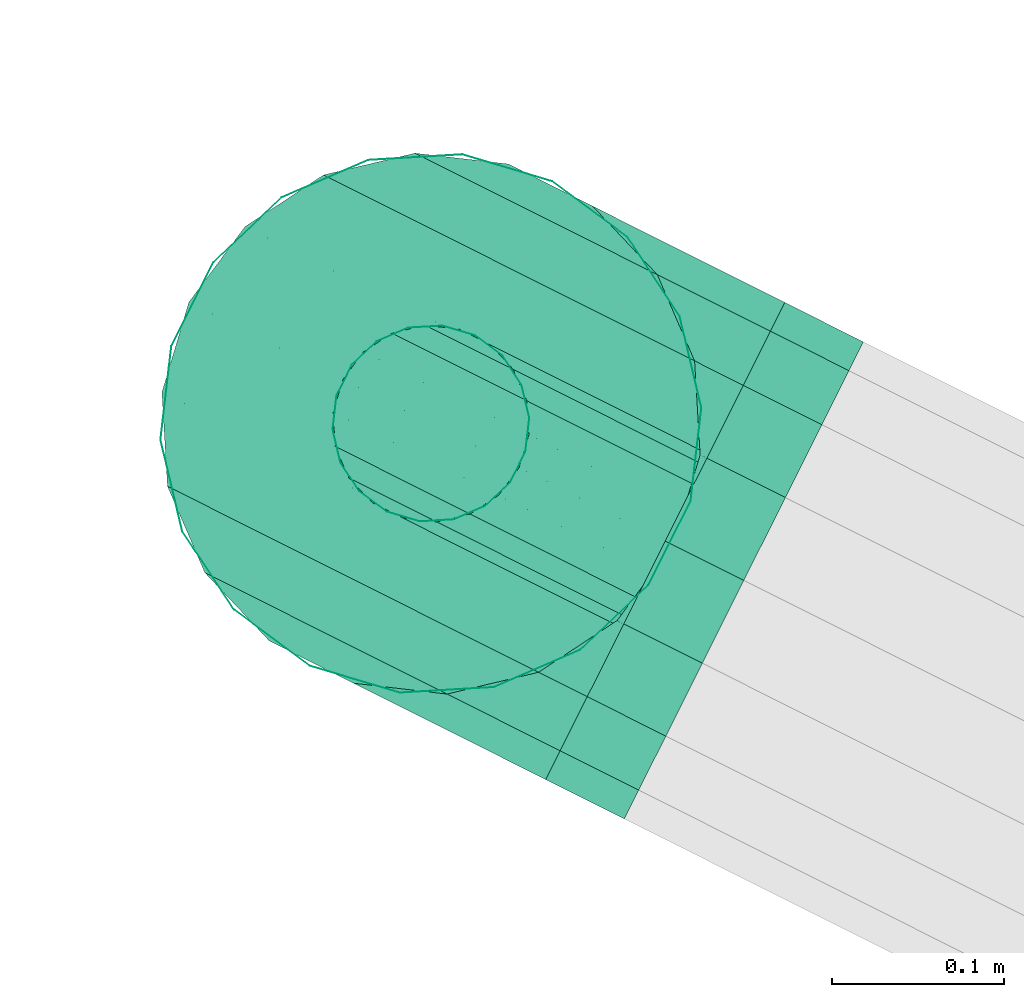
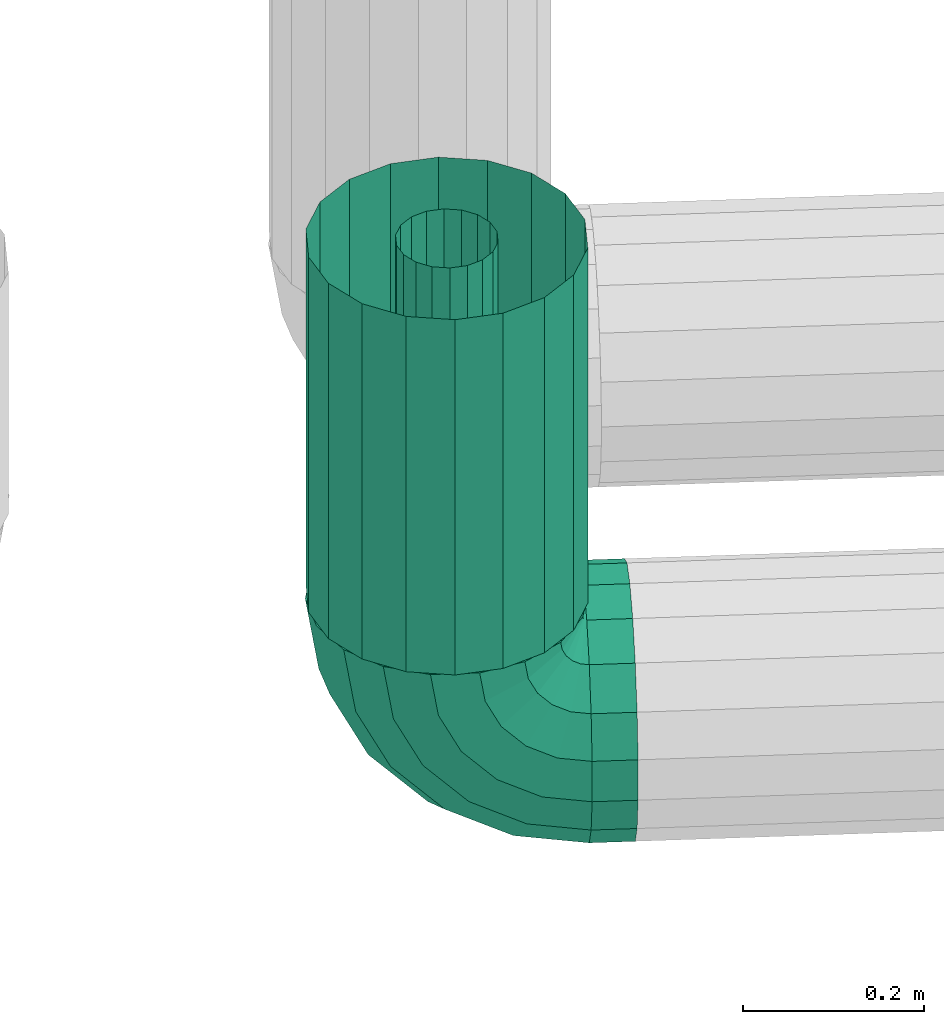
# One storey, part 167 of 206: 3 flow segments.
"""IFC2X3 building model written with IfcOpenShell, lengths in metres."""

from ifc_helpers import new_model, si_unit, derived_unit, direction, frame, origin, place, context, subcontext, project, spatial, face_set, surface_model, source, transform, mapped, material, type_object, type_shapes, element, save


model = new_model("IFC2X3")

# Units and contexts
model_context = context("Model", 3, precision=5.2338327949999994e-05, world=origin(), true_north=direction((0.0, 1.0)))
body_context = subcontext(model_context, "Body", "Model", "MODEL_VIEW")
ifc_project = project(units=[si_unit("LENGTHUNIT", "METRE"), si_unit("AREAUNIT", "SQUARE_METRE"), si_unit("VOLUMEUNIT", "CUBIC_METRE"), si_unit("MASSUNIT", "GRAM", prefix="KILO"), si_unit("PLANEANGLEUNIT", "RADIAN"), derived_unit("THERMALTRANSMITTANCEUNIT", [(si_unit("MASSUNIT", "GRAM", prefix="KILO"), 1), (si_unit("THERMODYNAMICTEMPERATUREUNIT", "KELVIN"), -1), (si_unit("TIMEUNIT", "SECOND"), -3)])], contexts=[model_context])

# Site, building, storey
site_placement = place(None, frame((0.0, 0.0, 0.0), z_axis=(0.0, 0.0, 1.0), x_axis=(0.8939966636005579, -0.4480736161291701, 0.0)))
site = spatial("IfcSite", under=ifc_project, at=site_placement, Name="Default", CompositionType="ELEMENT")
building_placement = place(site_placement, origin())
building = spatial("IfcBuilding", under=site, at=building_placement, CompositionType="ELEMENT")
storey_placement = place(building_placement, origin())
storey = spatial("IfcBuildingStorey", under=building, at=storey_placement, Name="Erdgeschoss", CompositionType="ELEMENT", Elevation=0.0)

# Flow segments
ifc_material = material(Name="IfcSurfaceStyle #9317")
distribution_element_type_1 = type_object("IfcDistributionElementType", Name="Rohrbogen 303678:Rohrbogen 303678", material=ifc_material)
shared_shape_1 = source(origin(), body_context, "Body", "SurfaceModel", [
    surface_model("IfcFaceBasedSurfaceModel", [(7.235704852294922, 7.327208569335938, 2.4051674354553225), (7.225468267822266, 7.327208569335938, 2.4697983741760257), (7.238982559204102, 7.34675505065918, 2.4062324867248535), (7.228915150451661, 7.34675505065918, 2.4697983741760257), (7.265412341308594, 7.327208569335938, 2.3468631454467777), (7.268200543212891, 7.34675505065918, 2.3488890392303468), (7.311682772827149, 7.327208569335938, 2.300592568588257), (7.313708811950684, 7.34675505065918, 2.303380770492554), (7.369987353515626, 7.327208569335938, 2.270884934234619), (7.371052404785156, 7.34675505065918, 2.274162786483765), (7.434618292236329, 7.327208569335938, 2.260648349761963), (7.434618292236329, 7.34675505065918, 2.264094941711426), (7.248420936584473, 7.363943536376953, 2.409299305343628), (7.238838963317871, 7.363943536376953, 2.4697983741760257), (7.276229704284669, 7.363943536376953, 2.354722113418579), (7.319542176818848, 7.363943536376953, 2.3114094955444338), (7.374119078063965, 7.363943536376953, 2.283601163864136), (7.434618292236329, 7.363943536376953, 2.2740188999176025), (7.262881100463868, 7.376701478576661, 2.4139977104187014), (7.254043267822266, 7.376701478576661, 2.4697983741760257), (7.288530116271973, 7.376701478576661, 2.36365906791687), (7.3284788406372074, 7.376701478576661, 2.32371019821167), (7.378817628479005, 7.376701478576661, 2.2980613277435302), (7.434618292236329, 7.376701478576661, 2.289223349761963), (7.2726944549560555, 7.383490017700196, 2.4697983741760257), (7.280619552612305, 7.383490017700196, 2.4197611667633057), (7.303619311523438, 7.383490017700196, 2.3746219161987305), (7.339441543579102, 7.383490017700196, 2.338799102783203), (7.384581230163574, 7.383490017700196, 2.3157994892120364), (7.434618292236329, 7.383490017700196, 2.3078743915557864), (7.299495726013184, 7.383490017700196, 2.425894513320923), (7.292542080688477, 7.383490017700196, 2.4697983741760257), (7.319676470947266, 7.383490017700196, 2.386288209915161), (7.35110827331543, 7.383490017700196, 2.354856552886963), (7.390714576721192, 7.383490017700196, 2.3346760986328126), (7.434618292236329, 7.383490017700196, 2.327722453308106), (7.3172341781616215, 7.376701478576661, 2.4316579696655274), (7.311193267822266, 7.376701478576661, 2.4697983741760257), (7.334765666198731, 7.376701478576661, 2.3972510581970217), (7.362070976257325, 7.376701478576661, 2.3699454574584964), (7.396478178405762, 7.376701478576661, 2.3524142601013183), (7.434618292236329, 7.376701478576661, 2.346373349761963), (7.331694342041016, 7.363943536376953, 2.4363563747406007), (7.326397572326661, 7.363943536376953, 2.4697983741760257), (7.347066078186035, 7.363943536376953, 2.4061880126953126), (7.371007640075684, 7.363943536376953, 2.3822461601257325), (7.401176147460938, 7.363943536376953, 2.3668745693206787), (7.434618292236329, 7.363943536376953, 2.3615777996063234), (7.336321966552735, 7.34675505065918, 2.4697983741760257), (7.341132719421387, 7.34675505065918, 2.4394231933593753), (7.35509465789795, 7.34675505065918, 2.412021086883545), (7.376841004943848, 7.34675505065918, 2.3902748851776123), (7.404242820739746, 7.34675505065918, 2.376312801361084), (7.434618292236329, 7.34675505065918, 2.371501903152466), (7.339768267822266, 7.327208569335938, 2.4697983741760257), (7.344410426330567, 7.327208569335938, 2.4404882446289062), (7.357882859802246, 7.327208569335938, 2.4140469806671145), (7.378867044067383, 7.327208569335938, 2.3930630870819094), (7.405307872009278, 7.327208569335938, 2.37959065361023), (7.434618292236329, 7.327208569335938, 2.3749483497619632), (7.341132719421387, 7.3076620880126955, 2.4394231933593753), (7.336321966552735, 7.3076620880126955, 2.4697983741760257), (7.35509465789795, 7.3076620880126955, 2.412021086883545), (7.376841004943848, 7.3076620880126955, 2.3902748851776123), (7.404242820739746, 7.3076620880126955, 2.376312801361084), (7.434618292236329, 7.3076620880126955, 2.371501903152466), (7.331694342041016, 7.290473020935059, 2.4363563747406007), (7.326397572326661, 7.290473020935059, 2.4697983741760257), (7.347066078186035, 7.290473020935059, 2.4061880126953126), (7.371007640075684, 7.290473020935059, 2.3822461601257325), (7.401176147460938, 7.290473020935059, 2.3668745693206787), (7.434618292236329, 7.290473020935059, 2.3615777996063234), (7.311193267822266, 7.277715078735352, 2.4697983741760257), (7.3172341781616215, 7.277715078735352, 2.4316579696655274), (7.334765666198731, 7.277715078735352, 2.3972510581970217), (7.362070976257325, 7.277715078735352, 2.3699454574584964), (7.396478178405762, 7.277715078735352, 2.3524142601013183), (7.434618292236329, 7.277715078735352, 2.346373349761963), (7.292542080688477, 7.270926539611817, 2.4697983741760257), (7.299495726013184, 7.270926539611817, 2.425894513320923), (7.319676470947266, 7.270926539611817, 2.386288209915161), (7.35110827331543, 7.270926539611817, 2.354856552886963), (7.390714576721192, 7.270926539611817, 2.3346760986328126), (7.434618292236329, 7.270926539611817, 2.327722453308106), (7.2726944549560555, 7.270926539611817, 2.4697983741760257), (7.280619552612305, 7.270926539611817, 2.4197611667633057), (7.303619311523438, 7.270926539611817, 2.3746219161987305), (7.339441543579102, 7.270926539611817, 2.338799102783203), (7.384581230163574, 7.270926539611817, 2.3157994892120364), (7.434618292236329, 7.270926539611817, 2.3078743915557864), (7.262881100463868, 7.277715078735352, 2.4139977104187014), (7.254043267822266, 7.277715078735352, 2.4697983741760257), (7.288530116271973, 7.277715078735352, 2.36365906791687), (7.3284788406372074, 7.277715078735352, 2.32371019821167), (7.378817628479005, 7.277715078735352, 2.2980613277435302), (7.434618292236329, 7.277715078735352, 2.289223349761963), (7.238838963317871, 7.290473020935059, 2.4697983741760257), (7.248420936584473, 7.290473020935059, 2.409299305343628), (7.276229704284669, 7.290473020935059, 2.354722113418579), (7.319542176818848, 7.290473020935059, 2.3114094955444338), (7.374119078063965, 7.290473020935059, 2.283601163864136), (7.434618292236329, 7.290473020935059, 2.2740188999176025), (7.228915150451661, 7.3076620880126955, 2.4697983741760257), (7.238982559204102, 7.3076620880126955, 2.4062324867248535), (7.268200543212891, 7.3076620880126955, 2.3488890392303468), (7.313708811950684, 7.3076620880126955, 2.303380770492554), (7.140599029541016, 7.327208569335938, 2.374265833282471), (7.125468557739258, 7.327208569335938, 2.4697983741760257), (7.1349458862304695, 7.380957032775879, 2.4697983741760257), (7.149612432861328, 7.380957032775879, 2.37719443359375), (7.184510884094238, 7.327208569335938, 2.288084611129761), (7.192177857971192, 7.380957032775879, 2.293655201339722), (7.252904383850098, 7.327208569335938, 2.21969082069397), (7.258474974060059, 7.380957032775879, 2.2273580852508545), (7.339085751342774, 7.327208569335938, 2.175779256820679), (7.342014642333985, 7.380957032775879, 2.1847928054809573), (7.434618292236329, 7.327208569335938, 2.1606483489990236), (7.434618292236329, 7.380957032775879, 2.1701256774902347), (7.175566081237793, 7.428222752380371, 2.3856272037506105), (7.162234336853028, 7.428222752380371, 2.4697983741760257), (7.214254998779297, 7.428222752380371, 2.309695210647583), (7.274515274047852, 7.428222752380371, 2.24943522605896), (7.350447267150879, 7.428222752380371, 2.210745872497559), (7.434618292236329, 7.428222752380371, 2.1974145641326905), (7.204043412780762, 7.463304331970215, 2.4697983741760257), (7.2153281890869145, 7.463304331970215, 2.3985467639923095), (7.248079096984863, 7.463304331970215, 2.3342698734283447), (7.299089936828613, 7.463304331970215, 2.2832593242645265), (7.3633668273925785, 7.463304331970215, 2.250508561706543), (7.434618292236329, 7.463304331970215, 2.2392233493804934), (7.264104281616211, 7.481971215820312, 2.414395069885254), (7.255329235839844, 7.481971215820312, 2.4697983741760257), (7.289570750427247, 7.481971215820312, 2.3644151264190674), (7.329235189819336, 7.481971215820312, 2.324750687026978), (7.379215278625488, 7.481971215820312, 2.29928465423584), (7.434618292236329, 7.481971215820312, 2.2905096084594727), (7.316010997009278, 7.481971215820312, 2.431260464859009), (7.309907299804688, 7.481971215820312, 2.4697983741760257), (7.333725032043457, 7.481971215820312, 2.3964949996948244), (7.361315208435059, 7.481971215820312, 2.3689049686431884), (7.396080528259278, 7.481971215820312, 2.351191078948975), (7.434618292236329, 7.481971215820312, 2.345087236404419), (7.36119312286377, 7.463304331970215, 2.4697983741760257), (7.3647870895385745, 7.463304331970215, 2.4471087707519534), (7.375216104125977, 7.463304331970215, 2.426640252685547), (7.3914604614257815, 7.463304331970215, 2.41039633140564), (7.411928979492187, 7.463304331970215, 2.399967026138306), (7.434618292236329, 7.463304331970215, 2.3963733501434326), (7.404549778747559, 7.428222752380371, 2.460028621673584), (7.403002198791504, 7.428222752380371, 2.4697983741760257), (7.409040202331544, 7.428222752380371, 2.4512149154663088), (7.416035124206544, 7.428222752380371, 2.444220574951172), (7.424848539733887, 7.428222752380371, 2.4397295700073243), (7.434618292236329, 7.428222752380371, 2.4381822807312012), (7.430502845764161, 7.380957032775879, 2.4684612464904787), (7.430291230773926, 7.380957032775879, 2.4697983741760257), (7.431117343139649, 7.380957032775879, 2.46725492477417), (7.432074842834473, 7.380957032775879, 2.466297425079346), (7.433281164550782, 7.380957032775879, 2.4656829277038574), (7.434618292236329, 7.380957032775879, 2.4654710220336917), (7.434618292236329, 7.356414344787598, 2.4697983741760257), (7.434618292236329, 7.357081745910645, 2.469055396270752), (7.434618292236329, 7.298002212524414, 2.4697983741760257), (7.434618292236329, 7.297334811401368, 2.469055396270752), (7.430502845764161, 7.273460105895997, 2.4684612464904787), (7.430291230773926, 7.273460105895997, 2.4697983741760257), (7.431117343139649, 7.273460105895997, 2.46725492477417), (7.432074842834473, 7.273460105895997, 2.466297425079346), (7.433281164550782, 7.273460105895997, 2.4656829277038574), (7.434618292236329, 7.273460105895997, 2.4654710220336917), (7.403002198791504, 7.226194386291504, 2.4697983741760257), (7.404549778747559, 7.226194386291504, 2.460028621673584), (7.409040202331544, 7.226194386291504, 2.4512149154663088), (7.416035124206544, 7.226194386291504, 2.444220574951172), (7.424848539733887, 7.226194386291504, 2.4397295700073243), (7.434618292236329, 7.226194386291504, 2.4381822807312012), (7.36119312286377, 7.191112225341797, 2.4697983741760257), (7.3647870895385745, 7.191112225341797, 2.4471087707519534), (7.375216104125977, 7.191112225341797, 2.426640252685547), (7.3914604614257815, 7.191112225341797, 2.41039633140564), (7.411928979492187, 7.191112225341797, 2.399967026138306), (7.434618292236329, 7.191112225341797, 2.3963733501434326), (7.309907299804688, 7.172445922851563, 2.4697983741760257), (7.316010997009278, 7.172445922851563, 2.431260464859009), (7.333725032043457, 7.172445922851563, 2.3964949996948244), (7.361315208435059, 7.172445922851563, 2.3689049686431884), (7.396080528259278, 7.172445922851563, 2.351191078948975), (7.434618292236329, 7.172445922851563, 2.345087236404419), (7.255329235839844, 7.172445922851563, 2.4697983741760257), (7.264104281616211, 7.172445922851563, 2.414395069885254), (7.289570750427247, 7.172445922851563, 2.3644151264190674), (7.329235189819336, 7.172445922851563, 2.324750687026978), (7.379215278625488, 7.172445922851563, 2.29928465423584), (7.434618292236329, 7.172445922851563, 2.2905096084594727), (7.204043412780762, 7.191112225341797, 2.4697983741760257), (7.2153281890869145, 7.191112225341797, 2.3985467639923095), (7.248079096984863, 7.191112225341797, 2.3342698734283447), (7.299089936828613, 7.191112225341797, 2.2832593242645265), (7.3633668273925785, 7.191112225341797, 2.250508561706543), (7.434618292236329, 7.191112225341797, 2.2392233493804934), (7.162234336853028, 7.226194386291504, 2.4697983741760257), (7.175566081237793, 7.226194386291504, 2.3856272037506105), (7.214254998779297, 7.226194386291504, 2.309695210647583), (7.274515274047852, 7.226194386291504, 2.24943522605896), (7.350447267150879, 7.226194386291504, 2.210745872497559), (7.434618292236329, 7.226194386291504, 2.1974145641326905), (7.1349458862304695, 7.273460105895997, 2.4697983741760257), (7.149612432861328, 7.273460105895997, 2.37719443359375), (7.192177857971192, 7.273460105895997, 2.293655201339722), (7.258474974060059, 7.273460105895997, 2.2273580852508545), (7.342014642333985, 7.273460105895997, 2.1847928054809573), (7.434618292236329, 7.273460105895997, 2.1701256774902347), (7.371052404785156, 7.3076620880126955, 2.274162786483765), (7.434618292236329, 7.3076620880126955, 2.264094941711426)], [face_set([[[0, 1, 2]], [[3, 2, 1]], [[4, 0, 2]], [[2, 5, 4]], [[6, 4, 7]], [[5, 7, 4]], [[8, 6, 7]], [[7, 9, 8]], [[10, 8, 9]], [[9, 11, 10]], [[2, 3, 12]], [[13, 12, 3]], [[5, 2, 14]], [[12, 14, 2]], [[7, 5, 15]], [[14, 15, 5]], [[9, 7, 16]], [[15, 16, 7]], [[11, 9, 17]], [[16, 17, 9]], [[12, 13, 18]], [[19, 18, 13]], [[14, 12, 20]], [[18, 20, 12]], [[15, 14, 21]], [[20, 21, 14]], [[16, 15, 21]], [[21, 22, 16]], [[17, 16, 22]], [[22, 23, 17]], [[18, 19, 24]], [[24, 25, 18]], [[20, 18, 25]], [[25, 26, 20]], [[21, 20, 26]], [[26, 27, 21]], [[22, 21, 27]], [[27, 28, 22]], [[23, 22, 28]], [[28, 29, 23]], [[25, 24, 30]], [[31, 30, 24]], [[26, 25, 32]], [[30, 32, 25]], [[27, 26, 33]], [[32, 33, 26]], [[28, 27, 33]], [[33, 34, 28]], [[29, 28, 35]], [[34, 35, 28]], [[30, 31, 36]], [[37, 36, 31]], [[32, 30, 38]], [[36, 38, 30]], [[33, 32, 38]], [[38, 39, 33]], [[34, 33, 40]], [[39, 40, 33]], [[35, 34, 41]], [[40, 41, 34]], [[36, 37, 42]], [[43, 42, 37]], [[38, 36, 44]], [[42, 44, 36]], [[39, 38, 45]], [[44, 45, 38]], [[40, 39, 46]], [[45, 46, 39]], [[41, 40, 47]], [[46, 47, 40]], [[42, 43, 48]], [[48, 49, 42]], [[44, 42, 49]], [[49, 50, 44]], [[45, 44, 50]], [[50, 51, 45]], [[46, 45, 51]], [[51, 52, 46]], [[47, 46, 52]], [[52, 53, 47]], [[49, 48, 54]], [[54, 55, 49]], [[50, 49, 56]], [[55, 56, 49]], [[51, 50, 56]], [[56, 57, 51]], [[52, 51, 57]], [[57, 58, 52]], [[53, 52, 58]], [[58, 59, 53]], [[55, 54, 60]], [[61, 60, 54]], [[56, 55, 60]], [[60, 62, 56]], [[57, 56, 63]], [[62, 63, 56]], [[58, 57, 64]], [[63, 64, 57]], [[59, 58, 65]], [[64, 65, 58]], [[60, 61, 66]], [[67, 66, 61]], [[62, 60, 68]], [[66, 68, 60]], [[63, 62, 69]], [[68, 69, 62]], [[64, 63, 70]], [[69, 70, 63]], [[65, 64, 71]], [[70, 71, 64]], [[66, 67, 72]], [[72, 73, 66]], [[68, 66, 73]], [[73, 74, 68]], [[69, 68, 75]], [[74, 75, 68]], [[70, 69, 76]], [[75, 76, 69]], [[71, 70, 76]], [[76, 77, 71]], [[73, 72, 78]], [[78, 79, 73]], [[74, 73, 79]], [[79, 80, 74]], [[75, 74, 81]], [[80, 81, 74]], [[76, 75, 82]], [[81, 82, 75]], [[77, 76, 82]], [[82, 83, 77]], [[79, 78, 84]], [[84, 85, 79]], [[80, 79, 85]], [[85, 86, 80]], [[81, 80, 87]], [[86, 87, 80]], [[82, 81, 88]], [[87, 88, 81]], [[83, 82, 88]], [[88, 89, 83]], [[85, 84, 90]], [[91, 90, 84]], [[86, 85, 92]], [[90, 92, 85]], [[87, 86, 93]], [[92, 93, 86]], [[88, 87, 94]], [[93, 94, 87]], [[89, 88, 95]], [[94, 95, 88]], [[90, 91, 96]], [[96, 97, 90]], [[92, 90, 97]], [[97, 98, 92]], [[93, 92, 98]], [[98, 99, 93]], [[94, 93, 100]], [[99, 100, 93]], [[95, 94, 100]], [[100, 101, 95]], [[97, 96, 102]], [[102, 103, 97]], [[98, 97, 103]], [[103, 104, 98]], [[99, 98, 104]], [[104, 105, 99]], [[103, 102, 1]], [[1, 0, 103]], [[104, 103, 0]], [[0, 4, 104]], [[105, 104, 4]], [[4, 6, 105]], [[106, 107, 108]], [[108, 109, 106]], [[110, 106, 111]], [[109, 111, 106]], [[112, 110, 111]], [[111, 113, 112]], [[114, 112, 113]], [[113, 115, 114]], [[116, 114, 117]], [[115, 117, 114]], [[109, 108, 118]], [[119, 118, 108]], [[111, 109, 120]], [[118, 120, 109]], [[113, 111, 121]], [[120, 121, 111]], [[115, 113, 121]], [[121, 122, 115]], [[117, 115, 122]], [[122, 123, 117]], [[118, 119, 124]], [[124, 125, 118]], [[120, 118, 125]], [[125, 126, 120]], [[121, 120, 126]], [[126, 127, 121]], [[122, 121, 127]], [[127, 128, 122]], [[123, 122, 128]], [[128, 129, 123]], [[125, 124, 130]], [[131, 130, 124]], [[126, 125, 132]], [[130, 132, 125]], [[127, 126, 132]], [[132, 133, 127]], [[128, 127, 133]], [[133, 134, 128]], [[129, 128, 135]], [[134, 135, 128]], [[130, 131, 136]], [[137, 136, 131]], [[132, 130, 136]], [[136, 138, 132]], [[133, 132, 138]], [[138, 139, 133]], [[134, 133, 139]], [[139, 140, 134]], [[135, 134, 140]], [[140, 141, 135]], [[136, 137, 142]], [[142, 143, 136]], [[138, 136, 143]], [[143, 144, 138]], [[139, 138, 144]], [[144, 145, 139]], [[140, 139, 145]], [[145, 146, 140]], [[141, 140, 146]], [[146, 147, 141]], [[143, 142, 148]], [[149, 148, 142]], [[144, 143, 150]], [[148, 150, 143]], [[145, 144, 151]], [[150, 151, 144]], [[146, 145, 151]], [[151, 152, 146]], [[147, 146, 152]], [[152, 153, 147]], [[148, 149, 154]], [[155, 154, 149]], [[150, 148, 156]], [[154, 156, 148]], [[151, 150, 156]], [[156, 157, 151]], [[152, 151, 157]], [[157, 158, 152]], [[153, 152, 158]], [[158, 159, 153]], [[160, 154, 161]], [[160, 161, 155]], [[154, 155, 161]], [[156, 154, 160]], [[157, 156, 160]], [[158, 157, 160]], [[159, 158, 160]], [[162, 163, 164]], [[165, 164, 163]], [[163, 162, 165]], [[164, 166, 162]], [[162, 166, 167]], [[167, 168, 162]], [[168, 169, 162]], [[164, 165, 170]], [[170, 171, 164]], [[166, 164, 171]], [[171, 172, 166]], [[167, 166, 173]], [[172, 173, 166]], [[168, 167, 174]], [[173, 174, 167]], [[169, 168, 175]], [[174, 175, 168]], [[171, 170, 176]], [[176, 177, 171]], [[172, 171, 177]], [[177, 178, 172]], [[173, 172, 178]], [[178, 179, 173]], [[174, 173, 180]], [[179, 180, 173]], [[175, 174, 180]], [[180, 181, 175]], [[177, 176, 182]], [[182, 183, 177]], [[178, 177, 184]], [[183, 184, 177]], [[179, 178, 184]], [[184, 185, 179]], [[180, 179, 186]], [[185, 186, 179]], [[181, 180, 187]], [[186, 187, 180]], [[183, 182, 188]], [[188, 189, 183]], [[184, 183, 190]], [[189, 190, 183]], [[185, 184, 191]], [[190, 191, 184]], [[186, 185, 192]], [[191, 192, 185]], [[187, 186, 193]], [[192, 193, 186]], [[189, 188, 194]], [[194, 195, 189]], [[190, 189, 195]], [[195, 196, 190]], [[191, 190, 197]], [[196, 197, 190]], [[192, 191, 198]], [[197, 198, 191]], [[193, 192, 198]], [[198, 199, 193]], [[195, 194, 200]], [[200, 201, 195]], [[196, 195, 202]], [[201, 202, 195]], [[197, 196, 203]], [[202, 203, 196]], [[198, 197, 204]], [[203, 204, 197]], [[199, 198, 205]], [[204, 205, 198]], [[201, 200, 206]], [[206, 207, 201]], [[202, 201, 208]], [[207, 208, 201]], [[203, 202, 208]], [[208, 209, 203]], [[204, 203, 210]], [[209, 210, 203]], [[205, 204, 211]], [[210, 211, 204]], [[207, 206, 107]], [[107, 106, 207]], [[208, 207, 110]], [[106, 110, 207]], [[209, 208, 112]], [[110, 112, 208]], [[210, 209, 114]], [[112, 114, 209]], [[211, 210, 116]], [[114, 116, 210]], [[100, 99, 212]], [[105, 212, 99]], [[101, 100, 213]], [[212, 213, 100]], [[212, 105, 6]], [[6, 8, 212]], [[213, 212, 8]], [[8, 10, 213]]])]),
])
type_shapes(distribution_element_type_1, [shared_shape_1])
flow_segment_1_placement = place(storey_placement, origin())
element("IfcFlowSegment", 1, at=flow_segment_1_placement, inside=storey, type_object=distribution_element_type_1, material=ifc_material, Name="Rohrbogen", ObjectType="Rohrbogen", context=body_context, shape_type="MappedRepresentation", body=[
    mapped(shared_shape_1, transform((0.0, 0.0, 0.0), scale=1.0)),
])
distribution_element_type_2 = type_object("IfcDistributionElementType", Name="Stahlrohr nach DIN 2448 303701:Stahlrohr nach DIN 2448 303701", material=ifc_material)
shared_shape_2 = source(origin(), body_context, "Body", "SurfaceModel", [
    surface_model("IfcFaceBasedSurfaceModel", [(7.485608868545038, 7.3272083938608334, 2.260648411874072), (7.485608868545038, 7.30766194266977, 2.264094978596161), (7.434618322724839, 7.307661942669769, 2.2640949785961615), (7.434618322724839, 7.3272083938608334, 2.2606484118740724), (7.485608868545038, 7.290473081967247, 2.274018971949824), (7.434618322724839, 7.290473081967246, 2.2740189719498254), (7.485608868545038, 7.2777150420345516, 2.28922341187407), (7.434618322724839, 7.277715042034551, 2.289223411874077), (7.485608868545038, 7.270926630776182, 2.3078744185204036), (7.434618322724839, 7.270926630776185, 2.3078744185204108), (7.485608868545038, 7.270926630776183, 2.327722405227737), (7.434618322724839, 7.270926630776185, 2.327722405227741), (7.485608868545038, 7.277715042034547, 2.346373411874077), (7.434618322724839, 7.2777150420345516, 2.3463734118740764), (7.485608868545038, 7.290473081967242, 2.361577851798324), (7.434618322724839, 7.290473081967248, 2.361577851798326), (7.485608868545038, 7.307661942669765, 2.3715018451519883), (7.434618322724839, 7.30766194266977, 2.371501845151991), (7.485608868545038, 7.3272083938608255, 2.3749484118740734), (7.434618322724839, 7.3272083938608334, 2.374948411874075), (7.485608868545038, 7.346754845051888, 2.3715018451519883), (7.434618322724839, 7.346754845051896, 2.3715018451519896), (7.485608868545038, 7.363943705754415, 2.361577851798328), (7.434618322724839, 7.36394370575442, 2.3615778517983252), (7.485608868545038, 7.376701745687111, 2.3463734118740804), (7.434618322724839, 7.376701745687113, 2.3463734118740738), (7.485608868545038, 7.383490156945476, 2.3277224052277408), (7.434618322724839, 7.38349015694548, 2.32772240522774), (7.485608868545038, 7.383490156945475, 2.3078744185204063), (7.434618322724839, 7.38349015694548, 2.307874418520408), (7.485608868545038, 7.3767017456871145, 2.289223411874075), (7.434618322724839, 7.3767017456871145, 2.289223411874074), (7.485608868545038, 7.363943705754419, 2.2740189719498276), (7.434618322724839, 7.363943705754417, 2.274018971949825), (7.485608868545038, 7.346754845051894, 2.2640949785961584), (7.434618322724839, 7.346754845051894, 2.264094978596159), (7.485608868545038, 7.327208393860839, 2.160648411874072), (7.485608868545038, 7.27345992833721, 2.1701257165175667), (7.434618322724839, 7.273459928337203, 2.1701257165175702), (7.434618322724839, 7.327208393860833, 2.1606484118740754), (7.485608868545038, 7.226194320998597, 2.1974145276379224), (7.434618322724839, 7.226194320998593, 2.1974145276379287), (7.485608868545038, 7.191112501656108, 2.2392234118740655), (7.434618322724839, 7.191112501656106, 2.2392234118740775), (7.485608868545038, 7.172445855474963, 2.290509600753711), (7.434618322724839, 7.172445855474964, 2.29050960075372), (7.485608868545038, 7.172445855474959, 2.345087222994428), (7.434618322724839, 7.172445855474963, 2.3450872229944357), (7.485608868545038, 7.1911125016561, 2.3963734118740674), (7.434618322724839, 7.191112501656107, 2.396373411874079), (7.485608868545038, 7.226194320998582, 2.438182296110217), (7.434618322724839, 7.2261943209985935, 2.4381822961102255), (7.485608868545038, 7.273459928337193, 2.4654711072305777), (7.434618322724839, 7.273459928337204, 2.465471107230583), (7.485608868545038, 7.32720839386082, 2.474948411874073), (7.434618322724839, 7.327208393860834, 2.4749484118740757), (7.485608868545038, 7.380956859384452, 2.4654711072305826), (7.434618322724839, 7.380956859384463, 2.4654711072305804), (7.485608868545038, 7.4282224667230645, 2.4381822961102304), (7.434618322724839, 7.428222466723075, 2.438182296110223), (7.485608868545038, 7.46330428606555, 2.3963734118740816), (7.434618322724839, 7.463304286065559, 2.3963734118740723), (7.485608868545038, 7.481970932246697, 2.3450872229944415), (7.434618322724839, 7.481970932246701, 2.3450872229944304), (7.485608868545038, 7.4819709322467, 2.290509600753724), (7.434618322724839, 7.481970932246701, 2.290509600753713), (7.485608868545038, 7.46330428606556, 2.2392234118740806), (7.434618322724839, 7.463304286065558, 2.2392234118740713), (7.485608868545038, 7.428222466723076, 2.197414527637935), (7.434618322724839, 7.428222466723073, 2.197414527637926), (7.485608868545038, 7.380956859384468, 2.1701257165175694), (7.434618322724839, 7.38095685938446, 2.1701257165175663)], [face_set([[[0, 1, 2, 3]], [[1, 4, 5, 2]], [[4, 6, 7, 5]], [[6, 8, 9, 7]], [[8, 10, 11, 9]], [[10, 12, 13, 11]], [[12, 14, 15, 13]], [[14, 16, 17, 15]], [[16, 18, 19, 17]], [[18, 20, 21, 19]], [[20, 22, 23, 21]], [[22, 24, 25, 23]], [[24, 26, 27, 25]], [[26, 28, 29, 27]], [[28, 30, 31, 29]], [[30, 32, 33, 31]], [[32, 34, 35, 33]], [[34, 0, 3, 35]], [[36, 37, 38, 39]], [[37, 40, 41, 38]], [[40, 42, 43, 41]], [[42, 44, 45, 43]], [[44, 46, 47, 45]], [[46, 48, 49, 47]], [[48, 50, 51, 49]], [[50, 52, 53, 51]], [[52, 54, 55, 53]], [[54, 56, 57, 55]], [[56, 58, 59, 57]], [[58, 60, 61, 59]], [[60, 62, 63, 61]], [[62, 64, 65, 63]], [[64, 66, 67, 65]], [[66, 68, 69, 67]], [[68, 70, 71, 69]], [[70, 36, 39, 71]]])]),
])
type_shapes(distribution_element_type_2, [shared_shape_2])
flow_segment_2_placement = place(storey_placement, origin())
element("IfcFlowSegment", 2, at=flow_segment_2_placement, inside=storey, type_object=distribution_element_type_2, material=ifc_material, Name="Stahlrohr nach DIN 2448", ObjectType="Stahlrohr nach DIN 2448", context=body_context, shape_type="MappedRepresentation", body=[
    mapped(shared_shape_2, transform((0.0, 0.0, 0.0), scale=1.0)),
])
distribution_element_type_3 = type_object("IfcDistributionElementType", Name="Stahlrohr nach DIN 2448 303982:Stahlrohr nach DIN 2448 303982", material=ifc_material)
shared_shape_3 = source(origin(), body_context, "Body", "SurfaceModel", [
    surface_model("IfcFaceBasedSurfaceModel", [(7.282618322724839, 7.270058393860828, 2.469798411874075), (7.302164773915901, 7.273504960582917, 2.469798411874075), (7.3021647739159, 7.273504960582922, 2.95), (7.28261832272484, 7.2700583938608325, 2.95), (7.319353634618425, 7.283428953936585, 2.469798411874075), (7.319353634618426, 7.283428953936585, 2.95), (7.332111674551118, 7.29863339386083, 2.469798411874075), (7.332111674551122, 7.298633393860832, 2.95), (7.338900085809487, 7.317284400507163, 2.469798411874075), (7.338900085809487, 7.3172844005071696, 2.95), (7.338900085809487, 7.337132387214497, 2.469798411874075), (7.338900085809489, 7.337132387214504, 2.95), (7.332111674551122, 7.355783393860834, 2.469798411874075), (7.332111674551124, 7.355783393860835, 2.95), (7.3193536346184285, 7.370987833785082, 2.469798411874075), (7.319353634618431, 7.370987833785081, 2.95), (7.302164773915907, 7.380911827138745, 2.469798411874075), (7.302164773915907, 7.380911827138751, 2.95), (7.282618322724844, 7.384358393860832, 2.469798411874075), (7.282618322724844, 7.3843583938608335, 2.95), (7.263071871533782, 7.3809118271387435, 2.469798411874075), (7.263071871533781, 7.380911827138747, 2.95), (7.245883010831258, 7.370987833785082, 2.469798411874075), (7.24588301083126, 7.370987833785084, 2.95), (7.233124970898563, 7.355783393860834, 2.469798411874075), (7.233124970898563, 7.355783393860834, 2.95), (7.226336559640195, 7.337132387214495, 2.469798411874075), (7.226336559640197, 7.337132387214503, 2.95), (7.226336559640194, 7.317284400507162, 2.469798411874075), (7.2263365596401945, 7.317284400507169, 2.95), (7.233124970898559, 7.298633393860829, 2.469798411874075), (7.233124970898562, 7.298633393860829, 2.95), (7.245883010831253, 7.283428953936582, 2.469798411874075), (7.245883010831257, 7.283428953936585, 2.95), (7.2630718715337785, 7.273504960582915, 2.469798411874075), (7.263071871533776, 7.273504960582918, 2.95), (7.282618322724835, 7.170058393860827, 2.469798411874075), (7.336366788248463, 7.179535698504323, 2.469798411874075), (7.336366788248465, 7.179535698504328, 2.95), (7.282618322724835, 7.170058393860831, 2.95), (7.3836323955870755, 7.206824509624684, 2.469798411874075), (7.3836323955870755, 7.206824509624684, 2.95), (7.418714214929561, 7.248633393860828, 2.469798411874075), (7.4187142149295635, 7.248633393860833, 2.95), (7.437380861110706, 7.299919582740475, 2.469798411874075), (7.437380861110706, 7.299919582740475, 2.95), (7.437380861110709, 7.354497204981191, 2.469798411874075), (7.43738086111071, 7.354497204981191, 2.95), (7.418714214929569, 7.40578339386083, 2.469798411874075), (7.418714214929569, 7.405783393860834, 2.95), (7.383632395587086, 7.4475922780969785, 2.469798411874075), (7.383632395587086, 7.4475922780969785, 2.95), (7.336366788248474, 7.4748810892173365, 2.469798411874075), (7.336366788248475, 7.474881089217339, 2.95), (7.282618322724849, 7.48435839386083, 2.469798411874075), (7.282618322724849, 7.484358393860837, 2.95), (7.22886985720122, 7.4748810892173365, 2.469798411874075), (7.228869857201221, 7.47488108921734, 2.95), (7.181604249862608, 7.447592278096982, 2.469798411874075), (7.181604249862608, 7.447592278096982, 2.95), (7.14652243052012, 7.405783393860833, 2.469798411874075), (7.14652243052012, 7.405783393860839, 2.95), (7.1278557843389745, 7.3544972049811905, 2.469798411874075), (7.1278557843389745, 7.3544972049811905, 2.95), (7.127855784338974, 7.299919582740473, 2.469798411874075), (7.127855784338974, 7.299919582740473, 2.95), (7.146522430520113, 7.248633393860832, 2.469798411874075), (7.146522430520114, 7.248633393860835, 2.95), (7.181604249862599, 7.206824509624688, 2.469798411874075), (7.181604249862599, 7.206824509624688, 2.95), (7.228869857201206, 7.179535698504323, 2.469798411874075), (7.228869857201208, 7.179535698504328, 2.95)], [face_set([[[0, 1, 2, 3]], [[1, 4, 5, 2]], [[4, 6, 7, 5]], [[6, 8, 9, 7]], [[8, 10, 11, 9]], [[10, 12, 13, 11]], [[12, 14, 15, 13]], [[14, 16, 17, 15]], [[16, 18, 19, 17]], [[18, 20, 21, 19]], [[20, 22, 23, 21]], [[22, 24, 25, 23]], [[24, 26, 27, 25]], [[26, 28, 29, 27]], [[28, 30, 31, 29]], [[30, 32, 33, 31]], [[32, 34, 35, 33]], [[34, 0, 3, 35]], [[36, 37, 38, 39]], [[37, 40, 41, 38]], [[40, 42, 43, 41]], [[42, 44, 45, 43]], [[44, 46, 47, 45]], [[46, 48, 49, 47]], [[48, 50, 51, 49]], [[50, 52, 53, 51]], [[52, 54, 55, 53]], [[54, 56, 57, 55]], [[56, 58, 59, 57]], [[58, 60, 61, 59]], [[60, 62, 63, 61]], [[62, 64, 65, 63]], [[64, 66, 67, 65]], [[66, 68, 69, 67]], [[68, 70, 71, 69]], [[70, 36, 39, 71]]])]),
])
type_shapes(distribution_element_type_3, [shared_shape_3])
flow_segment_3_placement = place(storey_placement, origin())
element("IfcFlowSegment", 3, at=flow_segment_3_placement, inside=storey, type_object=distribution_element_type_3, material=ifc_material, Name="Stahlrohr nach DIN 2448", ObjectType="Stahlrohr nach DIN 2448", context=body_context, shape_type="MappedRepresentation", body=[
    mapped(shared_shape_3, transform((0.0, 0.0, 0.0), scale=1.0)),
])

save(model, "model.ifc")
